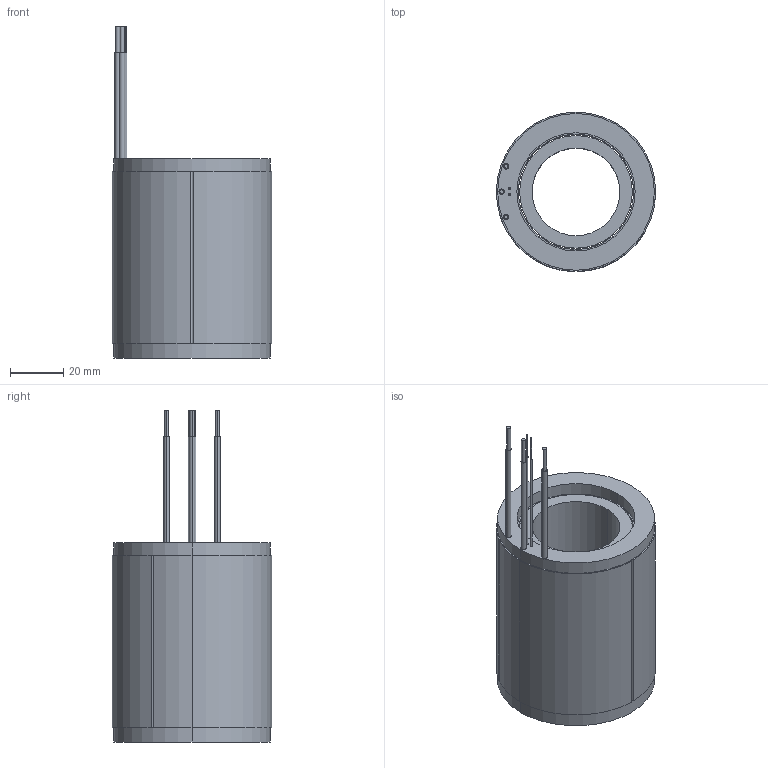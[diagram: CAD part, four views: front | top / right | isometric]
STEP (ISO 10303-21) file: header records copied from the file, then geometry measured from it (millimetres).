
FILE_DESCRIPTION (( 'STEP AP203' ), '1' );
FILE_NAME ('U6075-Y0048无框力矩电机 模型.STEP', '2025-12-11T06:12:03', ( 'Windows User' ), ( 'P R C' ), 'SwSTEP 2.0', 'SolidWorks 2023', '' );
FILE_SCHEMA (( 'CONFIG_CONTROL_DESIGN' ));
Length unit declared in the file: millimetre
Products named in the file (1): U6075-Y0048无框力矩电机 模型
Bounding box: 60 x 60 x 125 mm (x, y, z)
Volume: 136549.9 mm3; surface area: 45044.6 mm2
Topology: 2 solids, 2 shells, 64 faces, 138 edges, 90 vertices
Faces by surface type: cylinder 42, plane 22
Entity records: 1873 total; most frequent: DIRECTION 364, CARTESIAN_POINT 293, ORIENTED_EDGE 276, AXIS2_PLACEMENT_3D 161, EDGE_CURVE 138, CIRCLE 96, VERTEX_POINT 90, EDGE_LOOP 80
